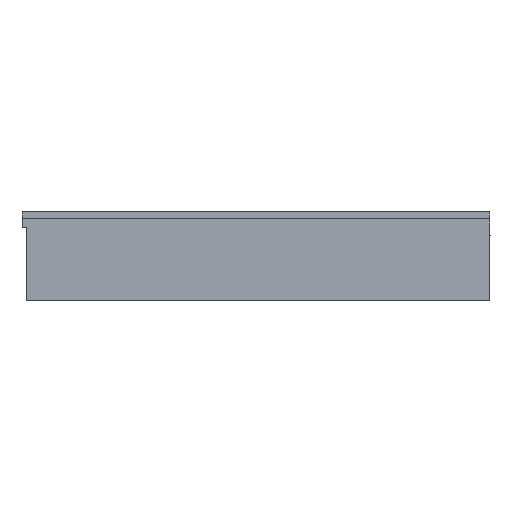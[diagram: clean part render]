
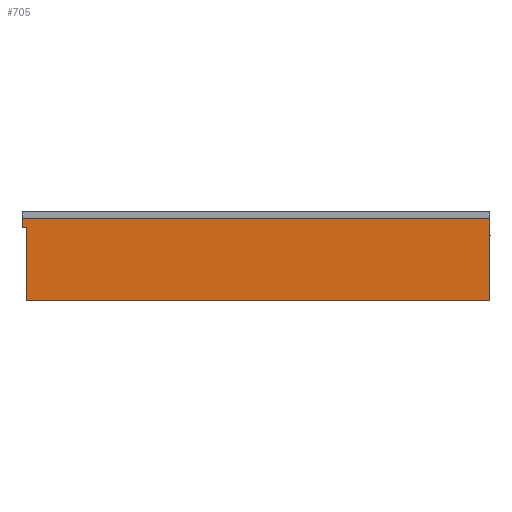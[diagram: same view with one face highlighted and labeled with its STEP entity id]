
A CAD part, front view. The second image highlights one B-rep face of the part: STEP entity #705.
In plain terms, the highlighted planar face has unit normal (0, -1, 0).
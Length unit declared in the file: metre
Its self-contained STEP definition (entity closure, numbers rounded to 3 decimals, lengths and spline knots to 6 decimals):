
#705 = ADVANCED_FACE( '', ( #1720 ), #1721, .F. );
#1720 = FACE_OUTER_BOUND( '', #3652, .T. );
#1721 = PLANE( '', #3653 );
#3652 = EDGE_LOOP( '', ( #6734, #6735, #6736, #6737, #6738, #6739, #6740, #6741, #6742 ) );
#3653 = AXIS2_PLACEMENT_3D( '', #6743, #6744, #6745 );
#6734 = ORIENTED_EDGE( '', *, *, #9594, .F. );
#6735 = ORIENTED_EDGE( '', *, *, #9590, .T. );
#6736 = ORIENTED_EDGE( '', *, *, #9595, .F. );
#6737 = ORIENTED_EDGE( '', *, *, #9596, .T. );
#6738 = ORIENTED_EDGE( '', *, *, #9597, .T. );
#6739 = ORIENTED_EDGE( '', *, *, #9598, .T. );
#6740 = ORIENTED_EDGE( '', *, *, #9599, .T. );
#6741 = ORIENTED_EDGE( '', *, *, #9600, .F. );
#6742 = ORIENTED_EDGE( '', *, *, #9601, .F. );
#6743 = CARTESIAN_POINT( '', ( -0.028, -0.107, 0.02695 ) );
#6744 = DIRECTION( '', ( 0., 1., 0. ) );
#6745 = DIRECTION( '', ( 1., 0., 0. ) );
#9590 = EDGE_CURVE( '', #11719, #11716, #11720, .T. );
#9594 = EDGE_CURVE( '', #11719, #11725, #11726, .T. );
#9595 = EDGE_CURVE( '', #11727, #11716, #11728, .T. );
#9596 = EDGE_CURVE( '', #11727, #11729, #11730, .T. );
#9597 = EDGE_CURVE( '', #11729, #11731, #11732, .T. );
#9598 = EDGE_CURVE( '', #11731, #11733, #11734, .T. );
#9599 = EDGE_CURVE( '', #11733, #11735, #11736, .T. );
#9600 = EDGE_CURVE( '', #11737, #11735, #11738, .T. );
#9601 = EDGE_CURVE( '', #11725, #11737, #11739, .T. );
#11716 = VERTEX_POINT( '', #16338 );
#11719 = VERTEX_POINT( '', #16342 );
#11720 = B_SPLINE_CURVE_WITH_KNOTS( '', 1, ( #16343, #16344 ), .UNSPECIFIED., .F., .F., ( 2, 2 ), ( 0., 1. ), .UNSPECIFIED. );
#11725 = VERTEX_POINT( '', #16352 );
#11726 = B_SPLINE_CURVE_WITH_KNOTS( '', 1, ( #16353, #16354 ), .UNSPECIFIED., .F., .F., ( 2, 2 ), ( 0., 1. ), .UNSPECIFIED. );
#11727 = VERTEX_POINT( '', #16355 );
#11728 = LINE( '', #16356, #16357 );
#11729 = VERTEX_POINT( '', #16358 );
#11730 = B_SPLINE_CURVE_WITH_KNOTS( '', 1, ( #16359, #16360 ), .UNSPECIFIED., .F., .F., ( 2, 2 ), ( 0., 1. ), .UNSPECIFIED. );
#11731 = VERTEX_POINT( '', #16361 );
#11732 = B_SPLINE_CURVE_WITH_KNOTS( '', 1, ( #16362, #16363 ), .UNSPECIFIED., .F., .F., ( 2, 2 ), ( 0., 0.990196 ), .UNSPECIFIED. );
#11733 = VERTEX_POINT( '', #16364 );
#11734 = LINE( '', #16365, #16366 );
#11735 = VERTEX_POINT( '', #16367 );
#11736 = LINE( '', #16368, #16369 );
#11737 = VERTEX_POINT( '', #16370 );
#11738 = B_SPLINE_CURVE_WITH_KNOTS( '', 3, ( #16371, #16372, #16373, #16374 ), .UNSPECIFIED., .F., .F., ( 4, 4 ), ( 0., 0.058824 ), .UNSPECIFIED. );
#11739 = B_SPLINE_CURVE_WITH_KNOTS( '', 1, ( #16375, #16376 ), .UNSPECIFIED., .F., .F., ( 2, 2 ), ( 0., 1. ), .UNSPECIFIED. );
#16338 = CARTESIAN_POINT( '', ( -0.027, -0.107, 0.0249 ) );
#16342 = CARTESIAN_POINT( '', ( -0.029, -0.107, 0.0249 ) );
#16343 = CARTESIAN_POINT( '', ( -0.029, -0.107, 0.0249 ) );
#16344 = CARTESIAN_POINT( '', ( -0.027, -0.107, 0.0249 ) );
#16352 = CARTESIAN_POINT( '', ( -0.029, -0.107, 0.029 ) );
#16353 = CARTESIAN_POINT( '', ( -0.029, -0.107, 0.0249 ) );
#16354 = CARTESIAN_POINT( '', ( -0.029, -0.107, 0.029 ) );
#16355 = CARTESIAN_POINT( '', ( -0.027, -0.107, 0.0229 ) );
#16356 = CARTESIAN_POINT( '', ( -0.027, -0.107, 0.02495 ) );
#16357 = VECTOR( '', #19213, 1. );
#16358 = CARTESIAN_POINT( '', ( -0.027, -0.107, -0.007 ) );
#16359 = CARTESIAN_POINT( '', ( -0.027, -0.107, 0.0229 ) );
#16360 = CARTESIAN_POINT( '', ( -0.027, -0.107, -0.007 ) );
#16361 = CARTESIAN_POINT( '', ( 0.175, -0.107, -0.007 ) );
#16362 = CARTESIAN_POINT( '', ( -0.027, -0.107, -0.007 ) );
#16363 = CARTESIAN_POINT( '', ( 0.175, -0.107, -0.007 ) );
#16364 = CARTESIAN_POINT( '', ( 0.177, -0.107, -0.007 ) );
#16365 = CARTESIAN_POINT( '', ( 0.176, -0.107, -0.007 ) );
#16366 = VECTOR( '', #19214, 1. );
#16367 = CARTESIAN_POINT( '', ( 0.177, -0.107, 0.027 ) );
#16368 = CARTESIAN_POINT( '', ( 0.177, -0.107, -0.007 ) );
#16369 = VECTOR( '', #19215, 1. );
#16370 = CARTESIAN_POINT( '', ( 0.177, -0.107, 0.029 ) );
#16371 = CARTESIAN_POINT( '', ( 0.177, -0.107, 0.029 ) );
#16372 = CARTESIAN_POINT( '', ( 0.177, -0.107, 0.028333 ) );
#16373 = CARTESIAN_POINT( '', ( 0.177, -0.107, 0.027667 ) );
#16374 = CARTESIAN_POINT( '', ( 0.177, -0.107, 0.027 ) );
#16375 = CARTESIAN_POINT( '', ( -0.029, -0.107, 0.029 ) );
#16376 = CARTESIAN_POINT( '', ( 0.177, -0.107, 0.029 ) );
#19213 = DIRECTION( '', ( 0., 0., 1. ) );
#19214 = DIRECTION( '', ( 1., 0., 0. ) );
#19215 = DIRECTION( '', ( 0., 0., 1. ) );
